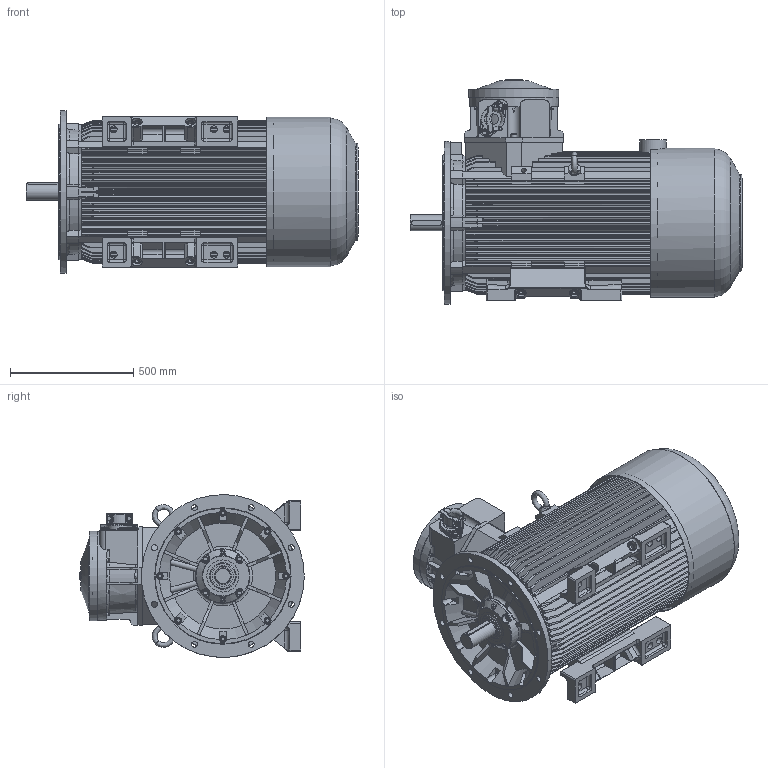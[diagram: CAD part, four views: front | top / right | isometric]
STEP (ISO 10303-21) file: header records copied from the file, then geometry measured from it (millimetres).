
FILE_DESCRIPTION(/* description */ ('Unknown'),/* implementation_level */ '2;1');
FILE_NAME(/* name */ 'cSTLe(b)315M2(B,C)-N-IE(2,3)',/* time_stamp */ '2022-04-19T14:15:33+02:00',/* author */ ('Unknown'),/* organization */ ('Unknown'),/* preprocessor_version */ 'ST-DEVELOPER v16.7',/* originating_system */ 'DEX',/* authorisation */ $);
FILE_SCHEMA (('AUTOMOTIVE_DESIGN {1 0 10303 214 3 1 1}'));
Products named in the file (1): cSTLe(b)315M2(B,C)-N-IE(2,3)
Bounding box: 1345.49 x 910 x 659.67 mm (x, y, z)
Volume: 308783532.9 mm3; surface area: 7985348.6 mm2
Topology: 1 solids, 67 shells, 2962 faces, 7614 edges, 4819 vertices
Faces by surface type: plane 1257, cylinder 894, cone 349, torus 231, bspline 152, sphere 79
Full cylindrical faces by diameter (mm): 2.8 x2, 3 x4, 8.16 x2, 8.376 x4, 10 x10, 10.106 x10, 11 x6, 12 x16, 13.5 x8, 13.546 x12, 13.835 x12, 14.63 x8, 16 x24, 17.5 x12, 18 x8, 20.319 x4, 20.752 x8, 22 x8, 24 x20, 26 x16, 28 x6, 40 x4, 44 x1, 60.376 x1, 65 x1, 67 x1, 85 x1, 87 x1, 106 x1, 129.8 x1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
Entity records: 115398 total; most frequent: CARTESIAN_POINT 26279, DIRECTION 14146, ORIENTED_EDGE 13908, EDGE_CURVE 6954, AXIS2_PLACEMENT_3D 5415, VERTEX_POINT 4618, FACE_BOUND 3576, EDGE_LOOP 3557
